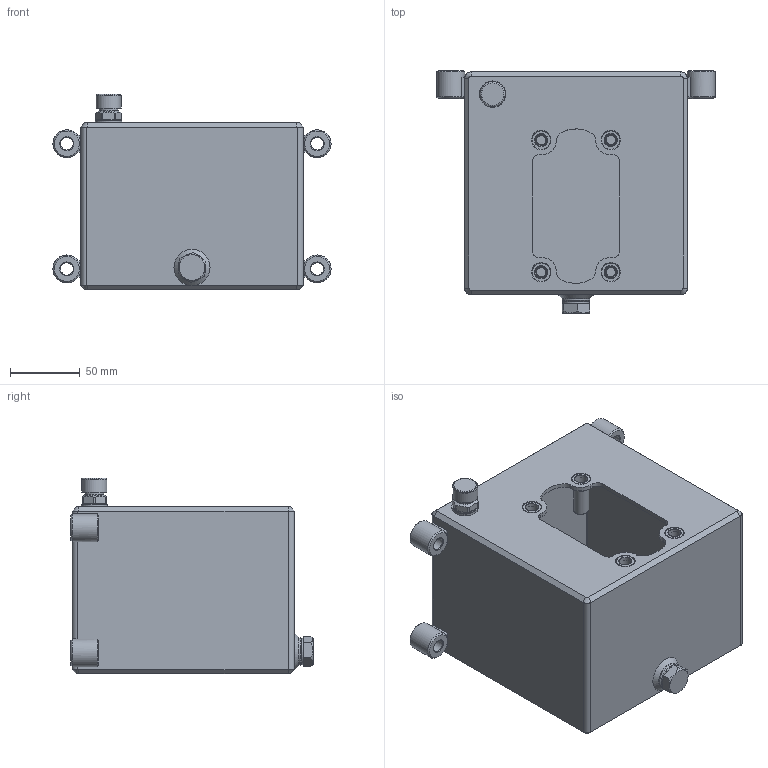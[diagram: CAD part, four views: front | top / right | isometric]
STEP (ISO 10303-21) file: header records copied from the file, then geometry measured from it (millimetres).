
FILE_DESCRIPTION(/* description */ ('Unknown'),/* implementation_level */ '2;1');
FILE_NAME(/* name */ 'SR02,5FE160',/* time_stamp */ '2024-11-28T10:12:15+01:00',/* author */ ('Unknown'),/* organization */ ('Unknown'),/* preprocessor_version */ 'ST-DEVELOPER v19.4',/* originating_system */ 'Solid Edge',/* authorisation */ 'Unknown');
FILE_SCHEMA (('AUTOMOTIVE_DESIGN {1 0 10303 214 3 1 1}'));
Length unit declared in the file: millimetre
Products named in the file (1): SR02,5FE160
Bounding box: 200 x 174.5 x 140.6 mm (x, y, z)
Volume: 377135.4 mm3; surface area: 250622.3 mm2
Topology: 2 solids, 4 shells, 264 faces, 608 edges, 377 vertices
Faces by surface type: plane 124, cylinder 70, cone 47, torus 21, bspline 2
Full cylindrical faces by diameter (mm): 5.8 x1, 6.647 x8, 9 x4, 9.15 x4, 10.5 x1, 10.88 x4, 10.9 x4, 13.157 x2, 13.2 x4, 13.5 x3, 15 x1, 16.8 x1, 17 x1, 18 x1, 19 x2, 20 x6, 20.1 x1
Entity records: 8428 total; most frequent: DIRECTION 1209, CARTESIAN_POINT 1165, ORIENTED_EDGE 914, AXIS2_PLACEMENT_3D 503, EDGE_CURVE 457, EDGE_LOOP 412, FACE_BOUND 412, VERTEX_POINT 333
